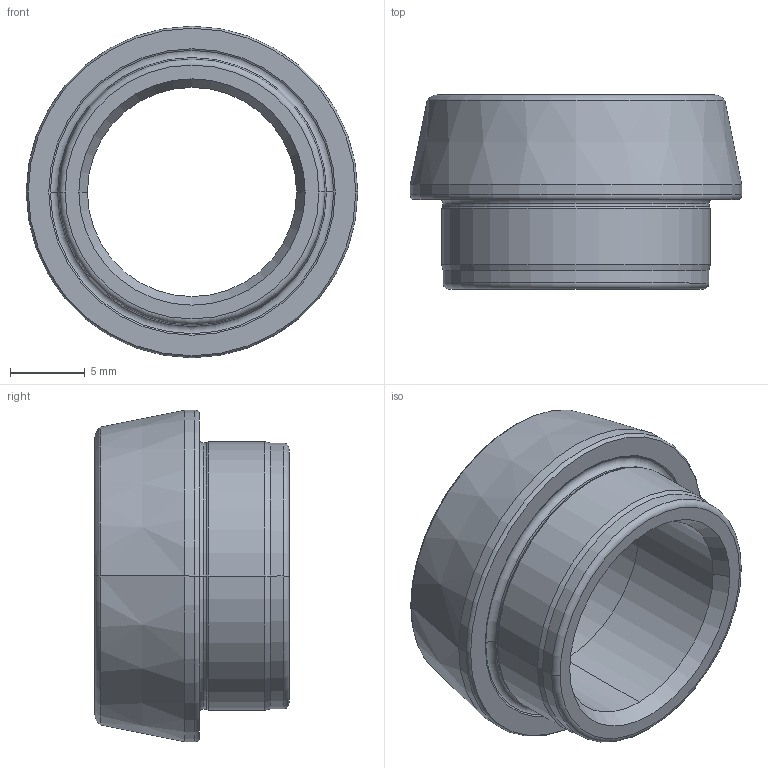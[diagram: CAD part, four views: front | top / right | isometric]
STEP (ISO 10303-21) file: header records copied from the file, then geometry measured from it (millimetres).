
FILE_DESCRIPTION (( 'STEP AP203' ), '1' );
FILE_NAME ('VXF0120-PD.STEP', '2014-11-25T05:00:50', ( '0393' ), ( 'Hewlett-Packard Company' ), 'SwSTEP 2.0', 'SolidWorks 2013', '' );
FILE_SCHEMA (( 'CONFIG_CONTROL_DESIGN' ));
Length unit declared in the file: millimetre
Products named in the file (1): VXF0120-PD
Bounding box: 22.2 x 13 x 22.2 mm (x, y, z)
Volume: 1928 mm3; surface area: 1695.7 mm2
Topology: 1 solids, 1 shells, 35 faces, 72 edges, 40 vertices
Faces by surface type: cone 12, torus 10, cylinder 10, plane 3
Entity records: 1005 total; most frequent: DIRECTION 194, CARTESIAN_POINT 148, ORIENTED_EDGE 144, AXIS2_PLACEMENT_3D 86, EDGE_CURVE 72, CIRCLE 50, VERTEX_POINT 40, EDGE_LOOP 38
